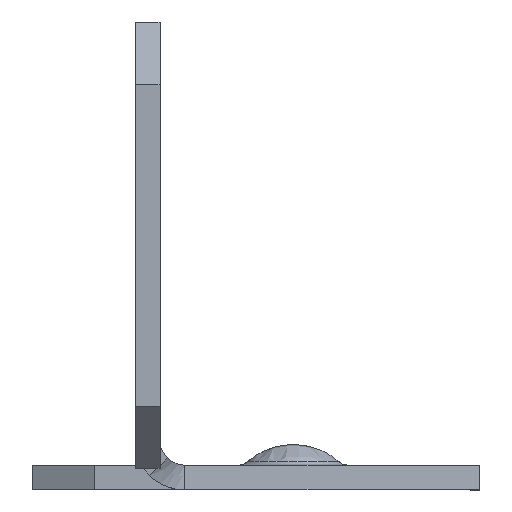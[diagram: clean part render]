
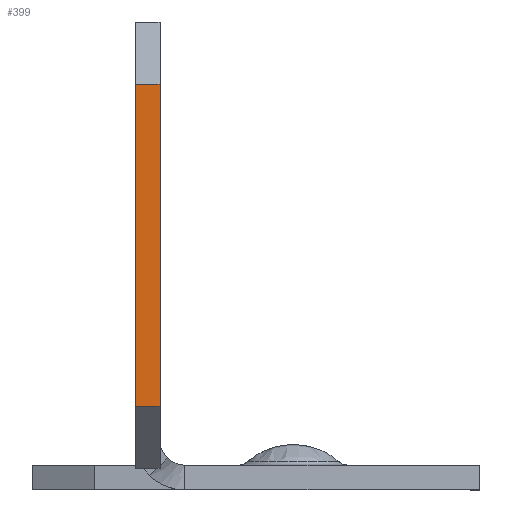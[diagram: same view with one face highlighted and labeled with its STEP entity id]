
A CAD part, front view. The second image highlights one B-rep face of the part: STEP entity #399.
In plain terms, the highlighted planar face has unit normal (0, -1, 0).
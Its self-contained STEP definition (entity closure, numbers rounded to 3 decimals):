
#128 = PLANE ( 'NONE',  #1544 ) ;
#328 = LINE ( 'NONE', #1955, #2008 ) ;
#338 = CARTESIAN_POINT ( 'NONE',  ( -9.738, -85., 17.869 ) ) ;
#359 = DIRECTION ( 'NONE',  ( 0., -1., 0. ) ) ;
#399 = ADVANCED_FACE ( 'NONE', ( #1032 ), #128, .T. ) ;
#462 = EDGE_CURVE ( 'NONE', #885, #2515, #2197, .T. ) ;
#811 = DIRECTION ( 'NONE',  ( 0., 0., -1. ) ) ;
#845 = EDGE_CURVE ( 'NONE', #2412, #1944, #1105, .T. ) ;
#885 = VERTEX_POINT ( 'NONE', #2122 ) ;
#970 = ORIENTED_EDGE ( 'NONE', *, *, #2558, .T. ) ;
#1032 = FACE_OUTER_BOUND ( 'NONE', #2658, .T. ) ;
#1057 = CARTESIAN_POINT ( 'NONE',  ( -9.738, -85., 17.869 ) ) ;
#1105 = LINE ( 'NONE', #2322, #2681 ) ;
#1202 = DIRECTION ( 'NONE',  ( 0., 0., -1. ) ) ;
#1298 = DIRECTION ( 'NONE',  ( 1., 0., 0. ) ) ;
#1340 = CARTESIAN_POINT ( 'NONE',  ( -7.738, -85., -16.656 ) ) ;
#1473 = CARTESIAN_POINT ( 'NONE',  ( -9.738, -85., -8.131 ) ) ;
#1544 = AXIS2_PLACEMENT_3D ( 'NONE', #2702, #359, #1202 ) ;
#1573 = VECTOR ( 'NONE', #2223, 1000. ) ;
#1785 = EDGE_CURVE ( 'NONE', #1944, #2515, #328, .T. ) ;
#1944 = VERTEX_POINT ( 'NONE', #1473 ) ;
#1955 = CARTESIAN_POINT ( 'NONE',  ( -9.738, -85., -8.131 ) ) ;
#2008 = VECTOR ( 'NONE', #1298, 1000. ) ;
#2062 = VECTOR ( 'NONE', #2775, 1000. ) ;
#2122 = CARTESIAN_POINT ( 'NONE',  ( -7.738, -85., 17.869 ) ) ;
#2197 = LINE ( 'NONE', #1340, #1573 ) ;
#2223 = DIRECTION ( 'NONE',  ( 0., 0., -1. ) ) ;
#2244 = ORIENTED_EDGE ( 'NONE', *, *, #1785, .T. ) ;
#2322 = CARTESIAN_POINT ( 'NONE',  ( -9.738, -85., -13.131 ) ) ;
#2412 = VERTEX_POINT ( 'NONE', #338 ) ;
#2501 = CARTESIAN_POINT ( 'NONE',  ( -7.738, -85., -8.131 ) ) ;
#2515 = VERTEX_POINT ( 'NONE', #2501 ) ;
#2558 = EDGE_CURVE ( 'NONE', #885, #2412, #2559, .T. ) ;
#2559 = LINE ( 'NONE', #1057, #2062 ) ;
#2596 = ORIENTED_EDGE ( 'NONE', *, *, #462, .F. ) ;
#2658 = EDGE_LOOP ( 'NONE', ( #970, #2737, #2244, #2596 ) ) ;
#2681 = VECTOR ( 'NONE', #811, 1000. ) ;
#2702 = CARTESIAN_POINT ( 'NONE',  ( -9.738, -85., -13.131 ) ) ;
#2737 = ORIENTED_EDGE ( 'NONE', *, *, #845, .T. ) ;
#2775 = DIRECTION ( 'NONE',  ( -1., 0., 0. ) ) ;
